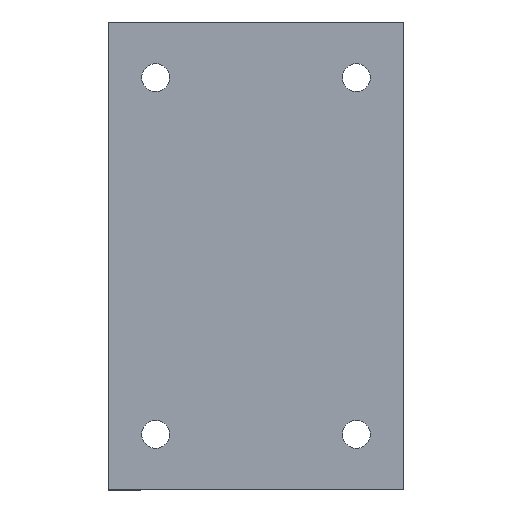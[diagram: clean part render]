
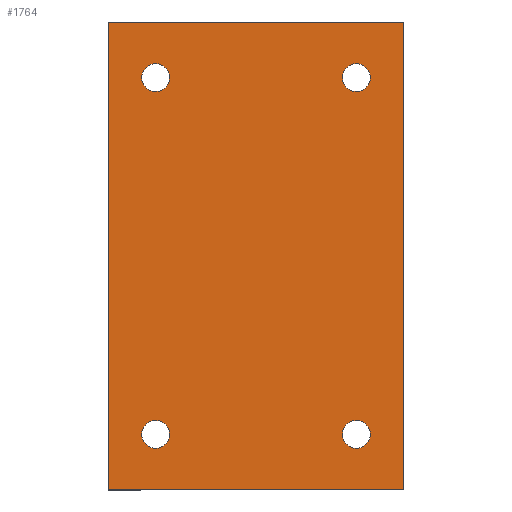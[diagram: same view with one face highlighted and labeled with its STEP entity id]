
A CAD part, front view. The second image highlights one B-rep face of the part: STEP entity #1764.
In plain terms, the highlighted planar face has unit normal (0, -1, 0).
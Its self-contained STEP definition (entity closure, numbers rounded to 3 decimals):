
#12 = ORIENTED_EDGE ( 'NONE', *, *, #1115, .F. ) ;
#41 = CARTESIAN_POINT ( 'NONE',  ( -18., -17.5, -29.5 ) ) ;
#49 = CARTESIAN_POINT ( 'NONE',  ( -18., -17.5, -32. ) ) ;
#72 = AXIS2_PLACEMENT_3D ( 'NONE', #1535, #1911, #1576 ) ;
#78 = VERTEX_POINT ( 'NONE', #1423 ) ;
#83 = FACE_BOUND ( 'NONE', #2252, .T. ) ;
#90 = ORIENTED_EDGE ( 'NONE', *, *, #1343, .T. ) ;
#154 = CARTESIAN_POINT ( 'NONE',  ( 18., -17.5, -32. ) ) ;
#162 = ORIENTED_EDGE ( 'NONE', *, *, #1496, .F. ) ;
#189 = CARTESIAN_POINT ( 'NONE',  ( -18., -17.5, 32. ) ) ;
#192 = ORIENTED_EDGE ( 'NONE', *, *, #2238, .F. ) ;
#210 = EDGE_CURVE ( 'NONE', #600, #1170, #670, .T. ) ;
#232 = AXIS2_PLACEMENT_3D ( 'NONE', #269, #257, #809 ) ;
#237 = DIRECTION ( 'NONE',  ( 0., -1., 0. ) ) ;
#238 = LINE ( 'NONE', #1501, #852 ) ;
#246 = AXIS2_PLACEMENT_3D ( 'NONE', #808, #784, #2049 ) ;
#248 = EDGE_LOOP ( 'NONE', ( #90, #1914, #192, #1627 ) ) ;
#257 = DIRECTION ( 'NONE',  ( 0., -1., 0. ) ) ;
#269 = CARTESIAN_POINT ( 'NONE',  ( 18., -17.5, -32. ) ) ;
#278 = VERTEX_POINT ( 'NONE', #1739 ) ;
#283 = FACE_BOUND ( 'NONE', #2258, .T. ) ;
#310 = CIRCLE ( 'NONE', #1180, 2.5 ) ;
#325 = LINE ( 'NONE', #1950, #1946 ) ;
#377 = CARTESIAN_POINT ( 'NONE',  ( 26.5, -17.5, 42. ) ) ;
#382 = EDGE_CURVE ( 'NONE', #949, #1405, #1531, .T. ) ;
#388 = DIRECTION ( 'NONE',  ( 0., 0., -1. ) ) ;
#394 = VERTEX_POINT ( 'NONE', #1828 ) ;
#404 = DIRECTION ( 'NONE',  ( 0., 0., -1. ) ) ;
#430 = AXIS2_PLACEMENT_3D ( 'NONE', #49, #237, #404 ) ;
#439 = VERTEX_POINT ( 'NONE', #602 ) ;
#456 = FACE_BOUND ( 'NONE', #1253, .T. ) ;
#490 = DIRECTION ( 'NONE',  ( 0., 0., -1. ) ) ;
#519 = DIRECTION ( 'NONE',  ( 0., 0., -1. ) ) ;
#539 = CIRCLE ( 'NONE', #2163, 2.5 ) ;
#541 = CARTESIAN_POINT ( 'NONE',  ( 18., -17.5, 34.5 ) ) ;
#552 = LINE ( 'NONE', #377, #2053 ) ;
#598 = DIRECTION ( 'NONE',  ( 1., 0., 0. ) ) ;
#600 = VERTEX_POINT ( 'NONE', #1487 ) ;
#602 = CARTESIAN_POINT ( 'NONE',  ( -26.5, -17.5, -42. ) ) ;
#621 = LINE ( 'NONE', #1500, #2321 ) ;
#646 = VERTEX_POINT ( 'NONE', #1370 ) ;
#670 = CIRCLE ( 'NONE', #246, 2.5 ) ;
#680 = FACE_OUTER_BOUND ( 'NONE', #248, .T. ) ;
#770 = EDGE_CURVE ( 'NONE', #2152, #646, #539, .T. ) ;
#784 = DIRECTION ( 'NONE',  ( 0., -1., 0. ) ) ;
#803 = CARTESIAN_POINT ( 'NONE',  ( 26.5, -17.5, 42. ) ) ;
#808 = CARTESIAN_POINT ( 'NONE',  ( 18., -17.5, 32. ) ) ;
#809 = DIRECTION ( 'NONE',  ( 0., 0., -1. ) ) ;
#845 = PLANE ( 'NONE',  #1410 ) ;
#852 = VECTOR ( 'NONE', #2314, 1000. ) ;
#857 = DIRECTION ( 'NONE',  ( 0., 1., 0. ) ) ;
#896 = DIRECTION ( 'NONE',  ( 0., -1., 0. ) ) ;
#935 = EDGE_CURVE ( 'NONE', #394, #1824, #310, .T. ) ;
#949 = VERTEX_POINT ( 'NONE', #41 ) ;
#959 = AXIS2_PLACEMENT_3D ( 'NONE', #189, #1994, #2331 ) ;
#991 = CIRCLE ( 'NONE', #430, 2.5 ) ;
#1018 = VERTEX_POINT ( 'NONE', #803 ) ;
#1061 = ORIENTED_EDGE ( 'NONE', *, *, #770, .F. ) ;
#1089 = ORIENTED_EDGE ( 'NONE', *, *, #210, .F. ) ;
#1111 = CIRCLE ( 'NONE', #72, 2.5 ) ;
#1115 = EDGE_CURVE ( 'NONE', #646, #2152, #1257, .T. ) ;
#1170 = VERTEX_POINT ( 'NONE', #541 ) ;
#1175 = DIRECTION ( 'NONE',  ( 0., 0., 1. ) ) ;
#1180 = AXIS2_PLACEMENT_3D ( 'NONE', #154, #896, #2337 ) ;
#1189 = CARTESIAN_POINT ( 'NONE',  ( -26.5, -17.5, 42. ) ) ;
#1208 = DIRECTION ( 'NONE',  ( 0., -1., 0. ) ) ;
#1222 = DIRECTION ( 'NONE',  ( 0., 0., -1. ) ) ;
#1246 = CARTESIAN_POINT ( 'NONE',  ( -18., -17.5, -32. ) ) ;
#1253 = EDGE_LOOP ( 'NONE', ( #1612, #1339 ) ) ;
#1257 = CIRCLE ( 'NONE', #959, 2.5 ) ;
#1307 = EDGE_CURVE ( 'NONE', #1405, #949, #991, .T. ) ;
#1339 = ORIENTED_EDGE ( 'NONE', *, *, #382, .F. ) ;
#1343 = EDGE_CURVE ( 'NONE', #439, #78, #621, .T. ) ;
#1359 = CARTESIAN_POINT ( 'NONE',  ( 18., -17.5, -34.5 ) ) ;
#1370 = CARTESIAN_POINT ( 'NONE',  ( -18., -17.5, 29.5 ) ) ;
#1393 = EDGE_LOOP ( 'NONE', ( #12, #1061 ) ) ;
#1405 = VERTEX_POINT ( 'NONE', #2062 ) ;
#1410 = AXIS2_PLACEMENT_3D ( 'NONE', #1189, #857, #1175 ) ;
#1423 = CARTESIAN_POINT ( 'NONE',  ( 26.5, -17.5, -42. ) ) ;
#1487 = CARTESIAN_POINT ( 'NONE',  ( 18., -17.5, 29.5 ) ) ;
#1496 = EDGE_CURVE ( 'NONE', #1170, #600, #1111, .T. ) ;
#1500 = CARTESIAN_POINT ( 'NONE',  ( -26.5, -17.5, -42. ) ) ;
#1501 = CARTESIAN_POINT ( 'NONE',  ( -26.5, -17.5, 42. ) ) ;
#1527 = EDGE_CURVE ( 'NONE', #1018, #78, #552, .T. ) ;
#1531 = CIRCLE ( 'NONE', #1845, 2.5 ) ;
#1535 = CARTESIAN_POINT ( 'NONE',  ( 18., -17.5, 32. ) ) ;
#1576 = DIRECTION ( 'NONE',  ( 0., 0., -1. ) ) ;
#1612 = ORIENTED_EDGE ( 'NONE', *, *, #1307, .F. ) ;
#1627 = ORIENTED_EDGE ( 'NONE', *, *, #1856, .T. ) ;
#1628 = ORIENTED_EDGE ( 'NONE', *, *, #1809, .F. ) ;
#1656 = DIRECTION ( 'NONE',  ( 0., -1., 0. ) ) ;
#1711 = CIRCLE ( 'NONE', #232, 2.5 ) ;
#1715 = FACE_BOUND ( 'NONE', #1393, .T. ) ;
#1739 = CARTESIAN_POINT ( 'NONE',  ( -26.5, -17.5, 42. ) ) ;
#1764 = ADVANCED_FACE ( 'NONE', ( #1715, #456, #680, #83, #283 ), #845, .F. ) ;
#1809 = EDGE_CURVE ( 'NONE', #1824, #394, #1711, .T. ) ;
#1824 = VERTEX_POINT ( 'NONE', #1359 ) ;
#1828 = CARTESIAN_POINT ( 'NONE',  ( 18., -17.5, -29.5 ) ) ;
#1845 = AXIS2_PLACEMENT_3D ( 'NONE', #1246, #1656, #388 ) ;
#1856 = EDGE_CURVE ( 'NONE', #278, #439, #325, .T. ) ;
#1885 = CARTESIAN_POINT ( 'NONE',  ( -18., -17.5, 34.5 ) ) ;
#1911 = DIRECTION ( 'NONE',  ( 0., -1., 0. ) ) ;
#1914 = ORIENTED_EDGE ( 'NONE', *, *, #1527, .F. ) ;
#1946 = VECTOR ( 'NONE', #1222, 1000. ) ;
#1950 = CARTESIAN_POINT ( 'NONE',  ( -26.5, -17.5, 42. ) ) ;
#1994 = DIRECTION ( 'NONE',  ( 0., -1., 0. ) ) ;
#2049 = DIRECTION ( 'NONE',  ( 0., 0., -1. ) ) ;
#2053 = VECTOR ( 'NONE', #519, 1000. ) ;
#2062 = CARTESIAN_POINT ( 'NONE',  ( -18., -17.5, -34.5 ) ) ;
#2108 = CARTESIAN_POINT ( 'NONE',  ( -18., -17.5, 32. ) ) ;
#2152 = VERTEX_POINT ( 'NONE', #1885 ) ;
#2163 = AXIS2_PLACEMENT_3D ( 'NONE', #2108, #1208, #490 ) ;
#2201 = ORIENTED_EDGE ( 'NONE', *, *, #935, .F. ) ;
#2238 = EDGE_CURVE ( 'NONE', #278, #1018, #238, .T. ) ;
#2252 = EDGE_LOOP ( 'NONE', ( #1628, #2201 ) ) ;
#2258 = EDGE_LOOP ( 'NONE', ( #1089, #162 ) ) ;
#2314 = DIRECTION ( 'NONE',  ( 1., 0., 0. ) ) ;
#2321 = VECTOR ( 'NONE', #598, 1000. ) ;
#2331 = DIRECTION ( 'NONE',  ( 0., 0., -1. ) ) ;
#2337 = DIRECTION ( 'NONE',  ( 0., 0., -1. ) ) ;
